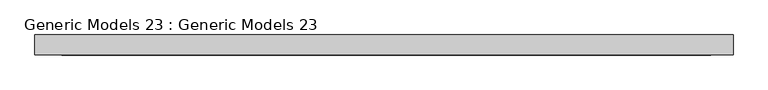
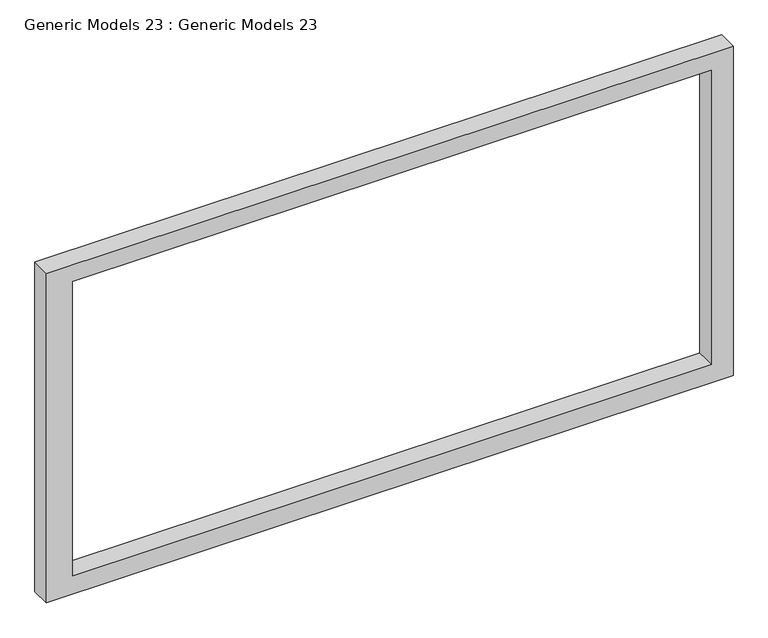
"""IFC4 building model written with IfcOpenShell, lengths in millimetres: proxy geometry, Generic Models 23 : Generic Models 23."""

from ifc_helpers import new_model, si_unit, frame, origin, place, context, project, spatial, polyline, outline, extrude, source, transform, mapped, element, save


def generic_models_23_generic_models_23_01d6a3c4(model_context):
    return source(origin(), model_context, "Body", "SweptSolid", [
        extrude(outline(polyline([(51130.0, -117280.400716), (47994.5317193, -117280.400716), (47994.5317193, -111101.8406927), (51130.0, -111101.8406927), (51130.0, -117280.400716)]), holes=[polyline([(50970.0, -117041.9650837), (50970.0, -111298.6902477), (48170.0, -111298.6902477), (48170.0, -117041.9650837), (50970.0, -117041.9650837)])]), frame((0.0, 37065.0854127, 0.0), z_axis=(0.0, 1.0, 0.0), x_axis=(0.0, 0.0, 1.0)), (0.0, 0.0, 1.0), 177.3390319),
    ])


if __name__ == "__main__":
    model = new_model("IFC4")
    model_context = context("Model", 3, world=origin())
    ifc_project = project(units=[si_unit("LENGTHUNIT", "METRE", prefix="MILLI")], contexts=[model_context])
    site = spatial("IfcSite", under=ifc_project)
    building = spatial("IfcBuilding", under=site)
    placement = place(None, origin())
    generic_models_23_generic_models_23_shape = generic_models_23_generic_models_23_01d6a3c4(model_context)
    element("IfcBuildingElementProxy", 1, Name="Generic Models 23 : Generic Models 23", ObjectType="Generic Models 23 : Generic Models 23", at=placement, inside=building, context=model_context, shape_type="MappedRepresentation", body=[
        mapped(generic_models_23_generic_models_23_shape, transform((0.0, 0.0, 0.0), x_axis=(1.0, 0.0, 0.0), y_axis=(0.0, 1.0, 0.0), z_axis=(0.0, 0.0, 1.0))),
    ])
    save(model, "model.ifc")
